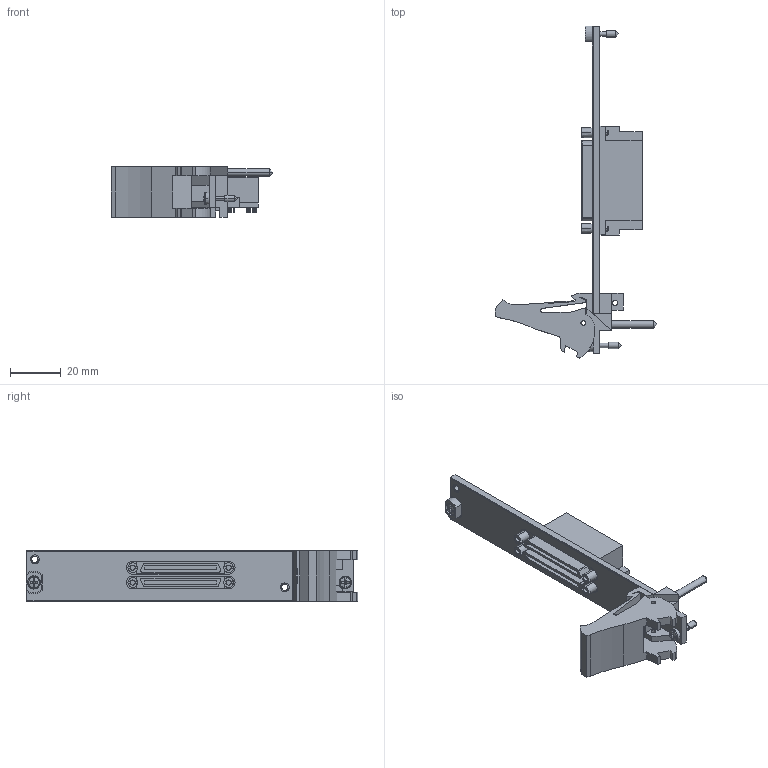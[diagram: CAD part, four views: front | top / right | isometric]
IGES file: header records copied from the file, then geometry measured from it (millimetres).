
Start section:  PTC IGES file: cu_pxi-mod-2x-68pos-vhdci.igs
Global section: file name: cu_pxi-mod-2x-68pos-vhdci.igs; native system: Pro/ENGINEER by Parametric Technology Corporation; preprocessor: 2006300; author: chrisj; organization: Unknown; date: 20080508.095400; units: inch
Bounding box: 63.53 x 130.5 x 20.02 mm (x, y, z)
Surface area: 16070.6 mm2 (no closed solid volume)
Topology: 0 solids, 0 shells, 495 faces, 2582 edges, 2576 vertices
Faces by surface type: bspline 311, revolution 184
